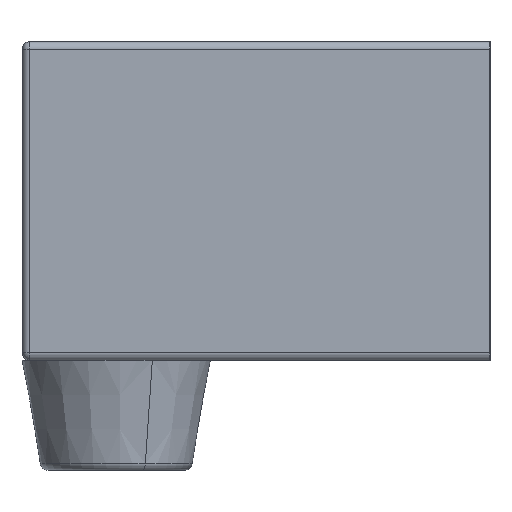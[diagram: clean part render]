
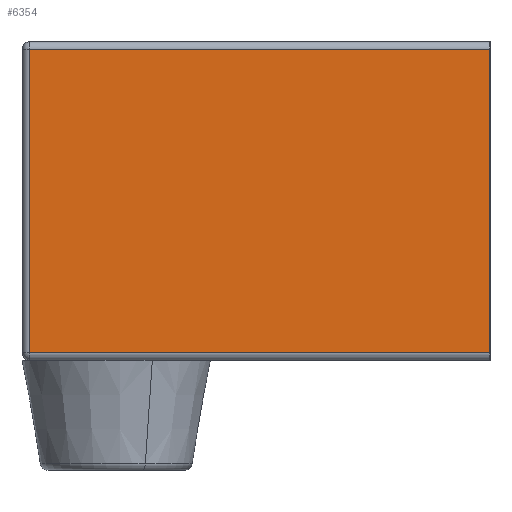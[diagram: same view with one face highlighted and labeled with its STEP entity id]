
A CAD part, left-side view. The second image highlights one B-rep face of the part: STEP entity #6354.
In plain terms, the highlighted planar face has unit normal (-1, 0, 0).
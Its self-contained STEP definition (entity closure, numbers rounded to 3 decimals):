
#149 = LINE ( 'NONE', #6186, #5197 ) ;
#338 = CARTESIAN_POINT ( 'NONE',  ( 0., 0., 20.3 ) ) ;
#395 = ORIENTED_EDGE ( 'NONE', *, *, #3093, .F. ) ;
#816 = DIRECTION ( 'NONE',  ( 0., 0., -1. ) ) ;
#850 = FACE_OUTER_BOUND ( 'NONE', #2859, .T. ) ;
#881 = DIRECTION ( 'NONE',  ( 0., 1., 0. ) ) ;
#998 = EDGE_CURVE ( 'NONE', #2451, #5245, #3493, .T. ) ;
#1082 = LINE ( 'NONE', #338, #4978 ) ;
#1508 = DIRECTION ( 'NONE',  ( 1., 0., 0. ) ) ;
#1591 = VERTEX_POINT ( 'NONE', #1705 ) ;
#1705 = CARTESIAN_POINT ( 'NONE',  ( 0., 0., 0.5 ) ) ;
#2199 = DIRECTION ( 'NONE',  ( 0., -1., 0. ) ) ;
#2451 = VERTEX_POINT ( 'NONE', #3074 ) ;
#2813 = VECTOR ( 'NONE', #2199, 1000. ) ;
#2847 = DIRECTION ( 'NONE',  ( 0., 0., -1. ) ) ;
#2859 = EDGE_LOOP ( 'NONE', ( #7329, #5342, #395, #5384 ) ) ;
#3074 = CARTESIAN_POINT ( 'NONE',  ( 0., 29.3, 19.8 ) ) ;
#3093 = EDGE_CURVE ( 'NONE', #7536, #1591, #1082, .T. ) ;
#3180 = PLANE ( 'NONE',  #3813 ) ;
#3493 = LINE ( 'NONE', #4037, #4567 ) ;
#3499 = CARTESIAN_POINT ( 'NONE',  ( 0., 29.3, 0.5 ) ) ;
#3813 = AXIS2_PLACEMENT_3D ( 'NONE', #3875, #1508, #816 ) ;
#3837 = DIRECTION ( 'NONE',  ( 0., 0., -1. ) ) ;
#3875 = CARTESIAN_POINT ( 'NONE',  ( 0., 0., 20.3 ) ) ;
#4037 = CARTESIAN_POINT ( 'NONE',  ( 0., 29.3, 20.3 ) ) ;
#4100 = CARTESIAN_POINT ( 'NONE',  ( 0., 0., 0.5 ) ) ;
#4328 = EDGE_CURVE ( 'NONE', #7536, #2451, #149, .T. ) ;
#4567 = VECTOR ( 'NONE', #2847, 1000. ) ;
#4863 = EDGE_CURVE ( 'NONE', #5245, #1591, #6326, .T. ) ;
#4978 = VECTOR ( 'NONE', #3837, 1000. ) ;
#5197 = VECTOR ( 'NONE', #881, 1000. ) ;
#5245 = VERTEX_POINT ( 'NONE', #3499 ) ;
#5251 = CARTESIAN_POINT ( 'NONE',  ( 0., 0., 19.8 ) ) ;
#5342 = ORIENTED_EDGE ( 'NONE', *, *, #4863, .T. ) ;
#5384 = ORIENTED_EDGE ( 'NONE', *, *, #4328, .T. ) ;
#6186 = CARTESIAN_POINT ( 'NONE',  ( 0., 0., 19.8 ) ) ;
#6326 = LINE ( 'NONE', #4100, #2813 ) ;
#6354 = ADVANCED_FACE ( 'NONE', ( #850 ), #3180, .F. ) ;
#7329 = ORIENTED_EDGE ( 'NONE', *, *, #998, .T. ) ;
#7536 = VERTEX_POINT ( 'NONE', #5251 ) ;
